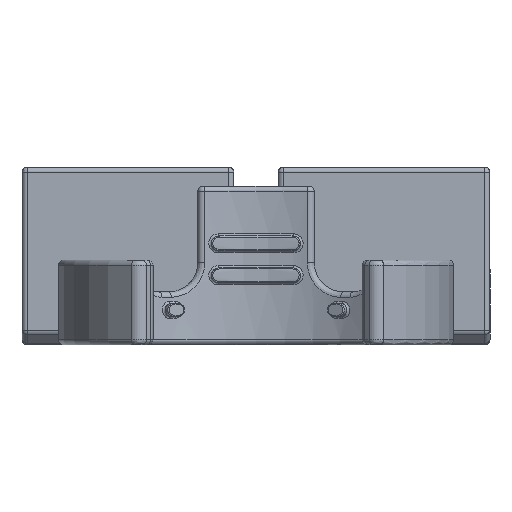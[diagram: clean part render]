
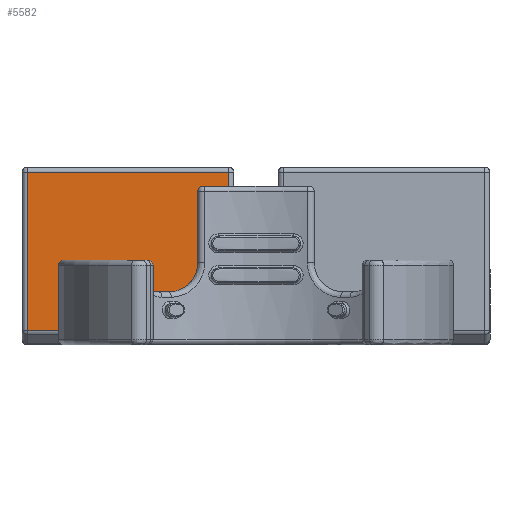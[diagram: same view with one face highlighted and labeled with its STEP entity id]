
A CAD part, front view. The second image highlights one B-rep face of the part: STEP entity #5582.
In plain terms, the highlighted planar face has unit normal (0, -1, 0).
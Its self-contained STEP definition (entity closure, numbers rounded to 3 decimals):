
#50=PLANE('',#6046);
#285=LINE('',#8944,#696);
#332=LINE('',#9060,#743);
#333=LINE('',#9064,#744);
#334=LINE('',#9065,#745);
#696=VECTOR('',#6840,10.);
#743=VECTOR('',#6935,10.);
#744=VECTOR('',#6940,10.);
#745=VECTOR('',#6941,10.);
#1265=FACE_OUTER_BOUND('',#1650,.T.);
#1650=EDGE_LOOP('',(#3965,#3966,#3967,#3968));
#2474=VERTEX_POINT('',#8938);
#2476=VERTEX_POINT('',#8942);
#2521=VERTEX_POINT('',#9059);
#2522=VERTEX_POINT('',#9063);
#2991=EDGE_CURVE('',#2476,#2474,#285,.T.);
#3049=EDGE_CURVE('',#2474,#2521,#332,.T.);
#3051=EDGE_CURVE('',#2522,#2476,#333,.T.);
#3052=EDGE_CURVE('',#2521,#2522,#334,.T.);
#3965=ORIENTED_EDGE('',*,*,#2991,.F.);
#3966=ORIENTED_EDGE('',*,*,#3051,.F.);
#3967=ORIENTED_EDGE('',*,*,#3052,.F.);
#3968=ORIENTED_EDGE('',*,*,#3049,.F.);
#5582=ADVANCED_FACE('',(#1265),#50,.F.);
#6046=AXIS2_PLACEMENT_3D('',#9062,#6938,#6939);
#6840=DIRECTION('',(0.,0.,-1.));
#6935=DIRECTION('',(-1.,0.,0.));
#6938=DIRECTION('center_axis',(0.,1.,0.));
#6939=DIRECTION('ref_axis',(1.,0.,0.));
#6940=DIRECTION('',(1.,0.,0.));
#6941=DIRECTION('',(0.,0.,1.));
#8938=CARTESIAN_POINT('',(127.428,-230.338,1.357));
#8942=CARTESIAN_POINT('',(127.428,-230.338,16.288));
#8944=CARTESIAN_POINT('',(127.428,-230.338,8.775));
#9059=CARTESIAN_POINT('',(108.406,-230.338,1.357));
#9060=CARTESIAN_POINT('',(109.531,-230.338,1.357));
#9062=CARTESIAN_POINT('Origin',(107.906,-230.338,17.55));
#9063=CARTESIAN_POINT('',(108.406,-230.338,16.288));
#9064=CARTESIAN_POINT('',(114.081,-230.338,16.288));
#9065=CARTESIAN_POINT('',(108.406,-230.338,9.051));
